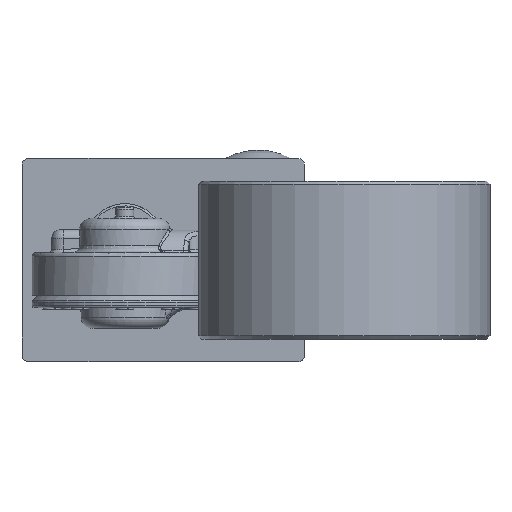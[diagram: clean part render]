
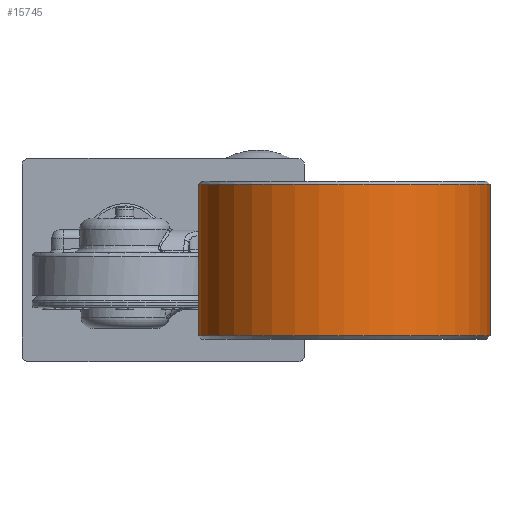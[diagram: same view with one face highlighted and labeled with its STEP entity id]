
A CAD part, left-side view. The second image highlights one B-rep face of the part: STEP entity #15745.
In plain terms, the highlighted cylindrical face has radius 64.5 mm (diameter 129 mm), a partial arc.
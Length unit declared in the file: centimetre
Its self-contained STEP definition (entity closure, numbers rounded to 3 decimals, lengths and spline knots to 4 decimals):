
#2906=VECTOR('',#20067,1.);
#2907=VECTOR('',#20068,1.);
#3907=LINE('',#34127,#2906);
#3908=LINE('',#34141,#2907);
#6146=VERTEX_POINT('',#34112);
#6148=VERTEX_POINT('',#34120);
#6151=VERTEX_POINT('',#34128);
#6153=VERTEX_POINT('',#34140);
#6700=CIRCLE('',#16969,6.45);
#6704=CIRCLE('',#16975,6.45);
#8648=EDGE_CURVE('',#6148,#6146,#6700,.T.);
#8651=EDGE_CURVE('',#6146,#6151,#3907,.T.);
#8654=EDGE_CURVE('',#6148,#6153,#3908,.T.);
#8656=EDGE_CURVE('',#6151,#6153,#6704,.T.);
#12560=ORIENTED_EDGE('',*,*,#8648,.F.);
#12561=ORIENTED_EDGE('',*,*,#8654,.T.);
#12562=ORIENTED_EDGE('',*,*,#8656,.F.);
#12563=ORIENTED_EDGE('',*,*,#8651,.F.);
#13725=EDGE_LOOP('',(#12560,#12561,#12562,#12563));
#14869=FACE_BOUND('',#13725,.T.);
#15745=ADVANCED_FACE('',(#14869),#34449,.T.);
#16969=AXIS2_PLACEMENT_3D('',#34121,#20060,#20061);
#16975=AXIS2_PLACEMENT_3D('',#34144,#20073,#20074);
#16985=AXIS2_PLACEMENT_3D('',#34158,#20091,#20092);
#20060=DIRECTION('',(0.,0.,1.));
#20061=DIRECTION('',(-6.45,0.,0.));
#20067=DIRECTION('',(0.,0.,-1.));
#20068=DIRECTION('',(0.,0.,-1.));
#20073=DIRECTION('',(0.,0.,-1.));
#20074=DIRECTION('',(-6.45,0.,0.));
#20091=DIRECTION('',(0.,0.,-1.));
#20092=DIRECTION('',(-6.45,0.,0.));
#34112=CARTESIAN_POINT('',(-5.519,-8.1523,5.5968));
#34120=CARTESIAN_POINT('',(-5.519,-5.3864,5.5968));
#34121=CARTESIAN_POINT('',(-11.819,-6.7693,5.5968));
#34127=CARTESIAN_POINT('',(-5.519,-8.1523,5.7468));
#34128=CARTESIAN_POINT('',(-5.519,-8.1523,-1.1032));
#34140=CARTESIAN_POINT('',(-5.519,-5.3864,-1.1032));
#34141=CARTESIAN_POINT('',(-5.519,-5.3864,5.7468));
#34144=CARTESIAN_POINT('',(-11.819,-6.7693,-1.1032));
#34158=CARTESIAN_POINT('',(-11.819,-6.7693,5.7468));
#34449=CYLINDRICAL_SURFACE('',#16985,6.45);
